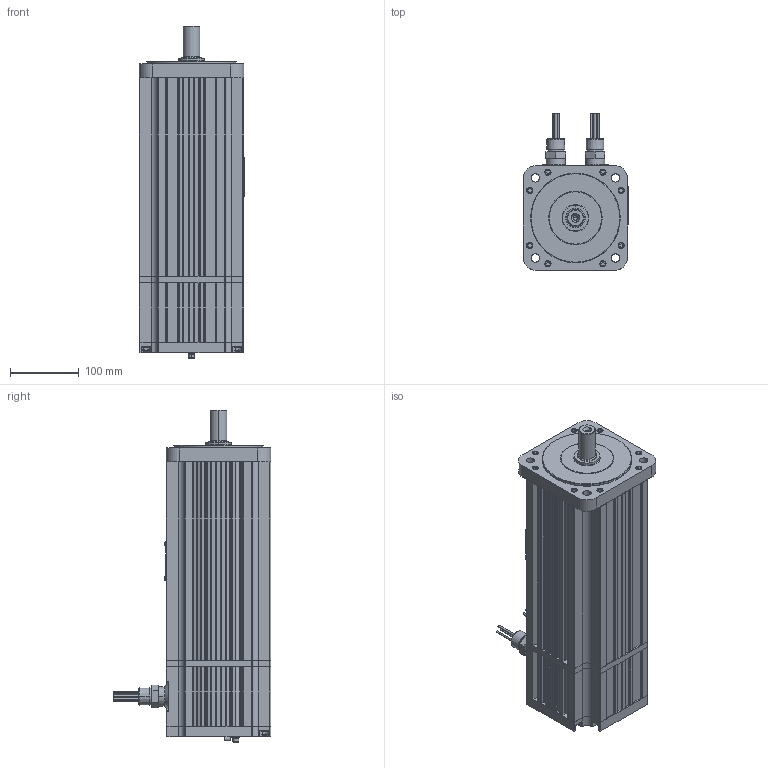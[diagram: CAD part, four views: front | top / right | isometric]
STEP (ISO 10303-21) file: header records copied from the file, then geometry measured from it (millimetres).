
FILE_DESCRIPTION (( 'STEP AP203' ), '1' );
FILE_NAME ('M464-GNS0-C508.STEP', '2010-11-17T14:11:31', ( '' ), ( '' ), 'SwSTEP 2.0', 'SolidWorks 2010', '' );
FILE_SCHEMA (( 'CONFIG_CONTROL_DESIGN' ));
Products named in the file (1): M464-GNS0-C508
Bounding box: 154.08 x 229.36 x 483.59 mm (x, y, z)
Surface area: 541080.1 mm2 (no closed solid volume)
Topology: 0 solids, 166 shells, 1614 faces, 5682 edges, 4194 vertices
Faces by surface type: plane 723, cylinder 654, cone 124, torus 61, bspline 45, sphere 7
Entity records: 70185 total; most frequent: CARTESIAN_POINT 22056, DIRECTION 9940, ORIENTED_EDGE 8787, EDGE_CURVE 5639, VERTEX_POINT 4194, LINE 3322, VECTOR 3322, AXIS2_PLACEMENT_3D 3309
